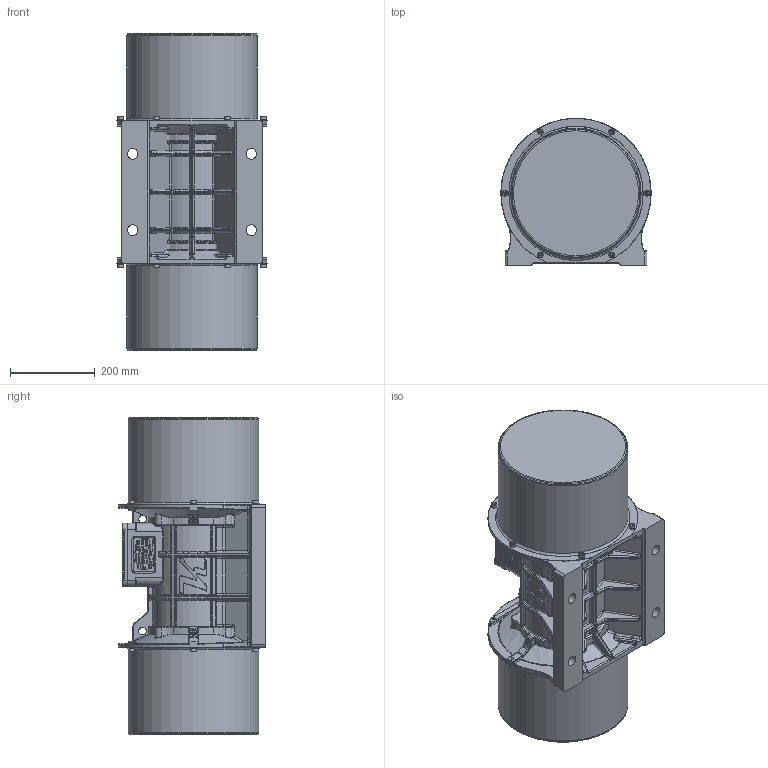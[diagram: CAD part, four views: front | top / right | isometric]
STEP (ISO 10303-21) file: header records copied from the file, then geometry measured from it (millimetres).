
FILE_DESCRIPTION(/* description */ (''),/* implementation_level */ '2;1');
FILE_NAME(/* name */ '8 NO B1 TAS.stp',/* time_stamp */ '2026-09-03T16:56:47+03:00',/* author */ ('PC'),/* organization */ (''),/* preprocessor_version */ 'ST-DEVELOPER v20.1',/* originating_system */ 'Autodesk Inventor 2026',/* authorisation */ '');
FILE_SCHEMA (('AUTOMOTIVE_DESIGN { 1 0 10303 214 3 1 1 }'));
Products named in the file (1): 8 NO B1 TAS
Bounding box: 353.98 x 347 x 748 mm (x, y, z)
Volume: 46955534.2 mm3; surface area: 1302675.4 mm2
Topology: 1 solids, 24 shells, 4953 faces, 12528 edges, 7756 vertices
Faces by surface type: plane 2060, bspline 1562, cylinder 744, torus 351, sphere 126, cone 110
Full cylindrical faces by diameter (mm): 3 x4, 6 x4, 6.647 x16, 8 x12, 8.3 x1, 8.4 x12, 8.5 x1, 9 x12, 13 x16, 16 x4, 18 x2, 18.5 x1, 18.6 x1, 22.5 x1, 25 x4, 28 x1, 32.2 x1, 46 x4, 307 x2, 316 x1
Entity records: 225075 total; most frequent: CARTESIAN_POINT 113412, ORIENTED_EDGE 24648, DIRECTION 18881, EDGE_CURVE 12324, VERTEX_POINT 7756, LINE 6589, VECTOR 6589, AXIS2_PLACEMENT_3D 6146
